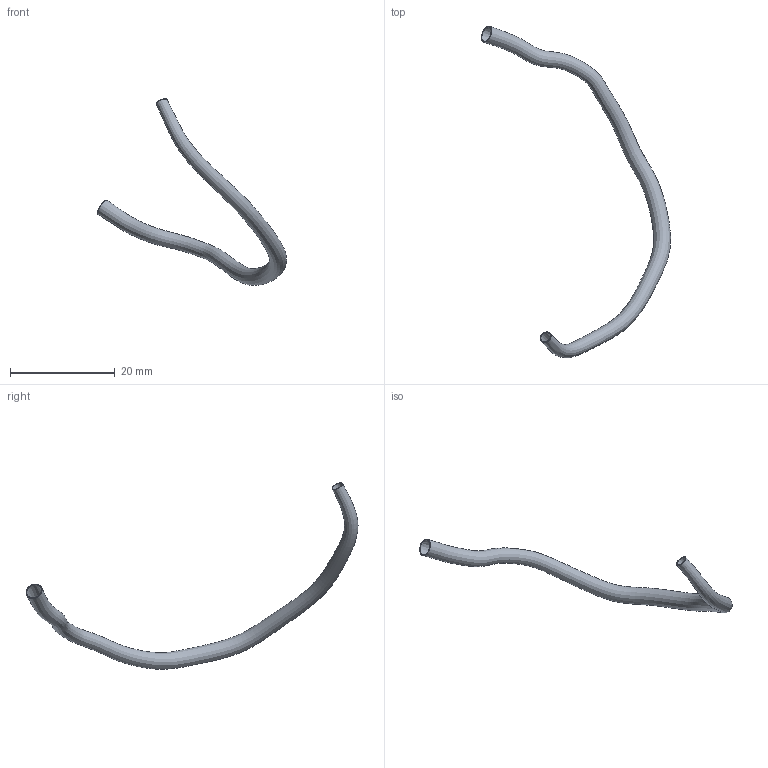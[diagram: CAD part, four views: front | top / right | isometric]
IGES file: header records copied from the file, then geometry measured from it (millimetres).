
Global section: file name: C:\Documents and Settings\Administrator\Desktop\FDA Bifurcation win\RawData_for_IGES\HRCA_Data\20030611.195803\IGES\20030611.195803.RCA.SEG.ED.igs; native system: Rhinoceros ( May 19 2006 ); preprocessor: Trout Lake IGES 012 May 19 2006; date: 100728.223255; units: centimetre
Bounding box: 36.18 x 63.47 x 35.67 mm (x, y, z)
Surface area: 1916.4 mm2 (no closed solid volume)
Topology: 0 solids, 0 shells, 4 faces, 12 edges, 8 vertices
Faces by surface type: bspline 4
